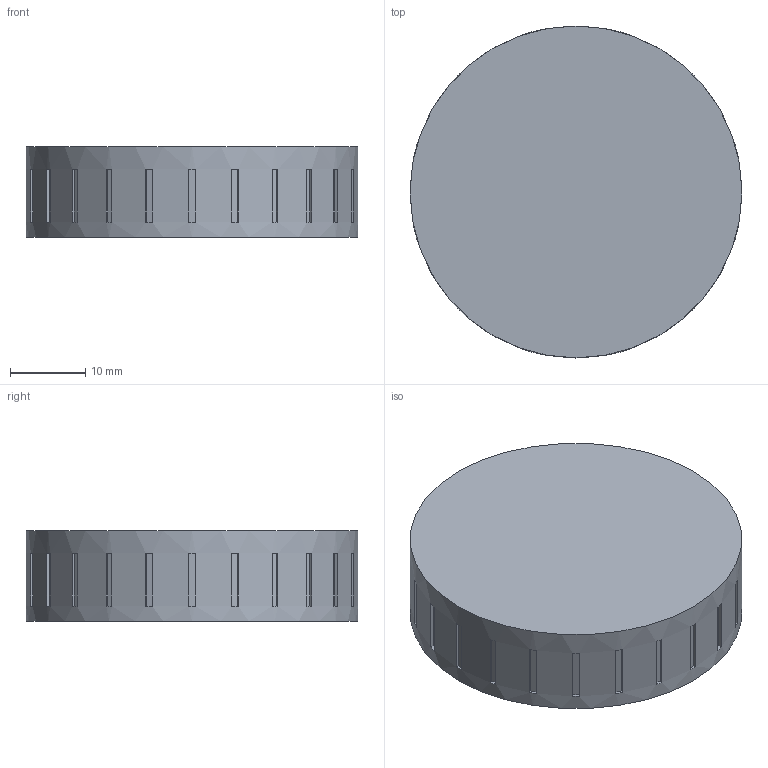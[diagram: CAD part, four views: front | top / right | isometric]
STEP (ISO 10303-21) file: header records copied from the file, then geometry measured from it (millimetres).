
FILE_DESCRIPTION(('Open CASCADE Model'),'2;1');
FILE_NAME('Open CASCADE Shape Model','2026-10-04T01:02:36',('Author'),( 'Open CASCADE'),'Open CASCADE STEP processor 8.0','Open CASCADE 8.0' ,'Unknown');
FILE_SCHEMA(('AUTOMOTIVE_DESIGN { 1 0 10303 214 1 1 1 1 }'));
Length unit declared in the file: millimetre
Products named in the file (1): Open CASCADE STEP translator 8.0 411
Bounding box: 44 x 44 x 12 mm (x, y, z)
Volume: 8086.2 mm3; surface area: 5918.6 mm2
Topology: 1 solids, 1 shells, 125 faces, 297 edges, 198 vertices
Faces by surface type: plane 123, cylinder 2
Full cylindrical faces by diameter (mm): 37.8 x1, 44 x1
Entity records: 7360 total; most frequent: CARTESIAN_POINT 1311, DIRECTION 1101, LINE 687, VECTOR 687, ORIENTED_EDGE 594, PCURVE 594, DEFINITIONAL_REPRESENTATION 594, EDGE_CURVE 297
